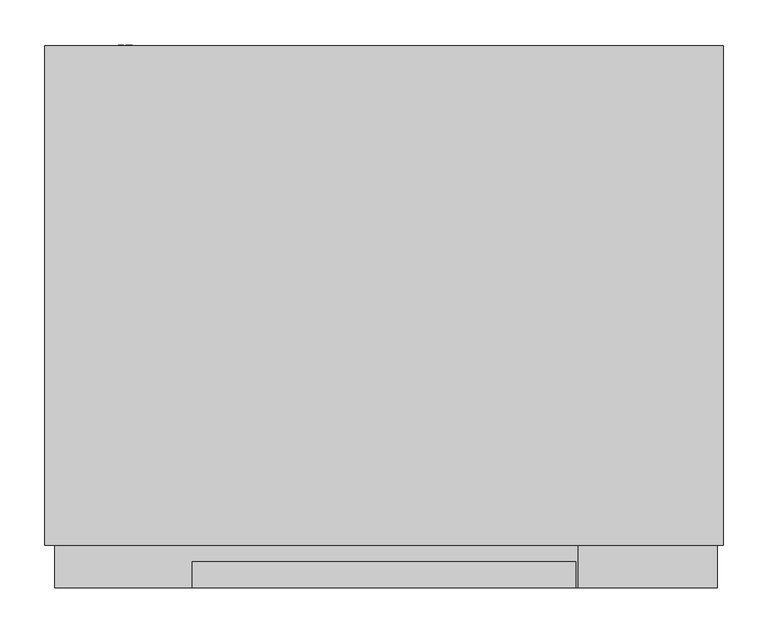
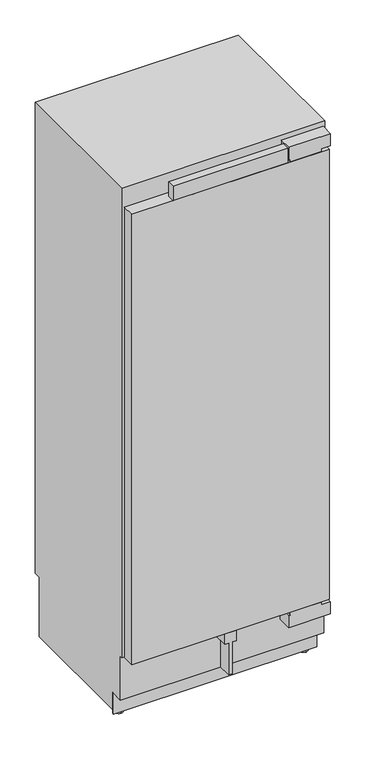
"""IFC4 building model written with IfcOpenShell, lengths in millimetres: proxy geometry, 11287990_OER_K2801VI : 36280101_OER_11287990_K2801VI."""

from ifc_helpers import new_model, si_unit, point, frame, frame_2d, origin, place, context, project, spatial, polyline, circle_curve, trimmed, segment, composite_curve, outline, extrude, source, transform, mapped, element, save
from ifc_brep_helpers import plane_surface, cylinder_surface, advanced_brep


def specialty_equipment_c14d8376(model_context):
    return source(origin(), model_context, "Body", "SolidModel", [
        extrude(outline(polyline([(-367.0, 47.0), (367.0, 47.0), (367.0, 0.0), (-367.0, 0.0), (-367.0, 47.0)])), frame((0.0, 0.0, 265.0), z_axis=(0.0, 0.0, 1.0), x_axis=(1.0, 0.0, 0.0)), (0.0, 0.0, 1.0), 1771.0),
        extrude(outline(polyline([(-213.5, 29.0), (213.5, 29.0), (213.5, 0.0), (-213.5, 0.0), (-213.5, 29.0)])), frame((0.0, 0.0, 2036.0), z_axis=(0.0, 0.0, 1.0), x_axis=(1.0, 0.0, 0.0)), (0.0, 0.0, 1.0), 56.0),
        extrude(outline(polyline([(265.0, 21.0), (265.0, 0.0), (265.0, -21.0), (224.0, -21.0), (224.0, -6.5), (99.0, -6.5), (99.0, 0.0), (99.0, 6.5), (224.0, 6.5), (224.0, 21.0), (265.0, 21.0)])), frame((0.0, 0.0, 0.0), z_axis=(0.0, 1.0, 0.0), x_axis=(0.0, 0.0, 1.0)), (0.0, 0.0, 1.0), 54.0),
        extrude(outline(polyline([(87.0, 1998.0), (544.0, 1998.0), (544.0, 1791.0), (475.0, 1791.0), (447.0, 1868.0), (201.3701279, 1868.0), (156.3150905, 1940.0880598), (87.0, 1949.0), (87.0, 1998.0)])), frame((-332.0, 0.0, 0.0), z_axis=(1.0, 0.0, 0.0), x_axis=(0.0, 1.0, 0.0)), (0.0, 0.0, 1.0), 664.0),
        extrude(outline(polyline([(196.9886114, 1875.0), (195.809433, 1875.0), (158.6921935, 1934.4), (159.8713719, 1934.4), (196.9886114, 1875.0)])), frame((-69.0, 0.0, 0.0), z_axis=(1.0, 0.0, 0.0), x_axis=(0.0, 1.0, 0.0)), (0.0, 0.0, 1.0), 138.0),
        extrude(outline(polyline([(2095.0, 371.5), (2095.0, 216.5), (2047.0, 216.5), (2047.0, 222.5), (2036.5, 222.5), (2036.5, 337.5), (2047.0, 337.5), (2047.0, 371.5), (2095.0, 371.5)])), frame((0.0, 0.0, 0.0), z_axis=(0.0, 1.0, 0.0), x_axis=(0.0, 0.0, 1.0)), (0.0, 0.0, 1.0), 47.0),
        extrude(outline(polyline([(254.0, 216.5), (206.0, 216.5), (206.0, 371.5), (254.0, 371.5), (254.0, 337.5), (264.0, 337.5), (264.0, 222.5), (254.0, 222.5), (254.0, 216.5)])), frame((0.0, 0.0, 0.0), z_axis=(0.0, 1.0, 0.0), x_axis=(0.0, 0.0, 1.0)), (0.0, 0.0, 1.0), 54.0),
        extrude(outline(polyline([(99.0373308, -287.7645771), (97.7615342, -287.7645771), (97.7615342, -281.8195541), (94.7968516, -281.8195541), (94.7968516, -287.469579), (93.5246295, -287.469579), (93.5246295, -281.8415693), (90.2570046, -281.8415693), (90.2570046, -287.9619689), (88.9546219, -287.9619689), (88.9546219, -280.5443524), (99.0373308, -280.5443524), (99.0373308, -287.7645771)])), frame((0.0, 604.0, 0.0), z_axis=(0.0, 1.0, 0.0), x_axis=(0.0, 0.0, 1.0)), (0.0, 0.0, 1.0), 1.0),
        extrude(outline(polyline([(99.0458, -291.0619704), (90.2663944, -291.0619704), (90.2663944, -296.1145879), (89.0134802, -296.1145879), (89.0134802, -289.8423809), (99.0458, -289.8423809), (99.0458, -291.0619704)])), frame((0.0, 604.0, 0.0), z_axis=(0.0, 1.0, 0.0), x_axis=(0.0, 0.0, 1.0)), (0.0, 0.0, 1.0), 1.0),
        extrude(outline(composite_curve([segment(trimmed(circle_curve(frame_2d((94.0, -288.0)), 7.5), [point((86.5, -288.0))], [point((101.5, -288.0))], False, "CARTESIAN"), True, "CONTINUOUS"), segment(trimmed(circle_curve(frame_2d((94.0, -288.0)), 7.5), [point((101.5, -288.0))], [point((86.5, -288.0))], False, "CARTESIAN"), True, "CONTINUOUS")], self_intersect=False)), frame((0.0, 577.0, 0.0), z_axis=(0.0, 1.0, 0.0), x_axis=(0.0, 0.0, 1.0)), (0.0, 0.0, 1.0), 27.0),
        extrude(outline(polyline([(-378.0, 104.0), (378.0, 104.0), (378.0, 99.0), (-378.0, 99.0), (-378.0, 104.0)])), frame((0.0, 0.0, 14.0), z_axis=(0.0, 0.0, 1.0), x_axis=(1.0, 0.0, 0.0)), (0.0, 0.0, 1.0), 83.0),
        advanced_brep(
        [(-344.0, 139.0, 0.0), (-344.0, 109.0, 0.0), (-344.0, 139.0, 7.0), (-344.0, 109.0, 7.0), (-344.0, 128.7, 7.0), (-344.0, 119.3, 7.0), (-344.0, 128.7, 28.0), (-344.0, 119.3, 28.0)],
        [
            (0, 1, circle_curve(frame((-344.0, 124.0, 0.0), z_axis=(0.0, 0.0, -1.0), x_axis=(1.0, 0.0, 0.0)), 15.0)),
            (1, 0, circle_curve(frame((-344.0, 124.0, 0.0), z_axis=(0.0, 0.0, -1.0), x_axis=(1.0, 0.0, 0.0)), 15.0)),
            (2, 3, circle_curve(frame((-344.0, 124.0, 7.0), z_axis=(0.0, 0.0, 1.0), x_axis=(1.0, 0.0, 0.0)), 15.0)),
            (3, 2, circle_curve(frame((-344.0, 124.0, 7.0), z_axis=(0.0, 0.0, 1.0), x_axis=(1.0, 0.0, 0.0)), 15.0)),
            (4, 5, circle_curve(frame((-344.0, 124.0, 7.0), z_axis=(0.0, 0.0, -1.0), x_axis=(0.0, -1.0, 0.0)), 4.7)),
            (5, 4, circle_curve(frame((-344.0, 124.0, 7.0), z_axis=(0.0, 0.0, -1.0), x_axis=(0.0, -1.0, 0.0)), 4.7)),
            (0, 2),
            (3, 1),
            (6, 7, circle_curve(frame((-344.0, 124.0, 28.0), z_axis=(0.0, 0.0, 1.0), x_axis=(0.0, -1.0, 0.0)), 4.7)),
            (7, 6, circle_curve(frame((-344.0, 124.0, 28.0), z_axis=(0.0, 0.0, 1.0), x_axis=(0.0, -1.0, 0.0)), 4.7)),
            (7, 5),
            (4, 6),
        ],
        [
            plane_surface(frame((-329.0, 124.0, 0.0), z_axis=(0.0, 0.0, -1.0), x_axis=(0.0, -1.0, 0.0))),
            plane_surface(frame((-329.0, 124.0, 7.0), z_axis=(0.0, 0.0, 1.0), x_axis=(0.0, 1.0, 0.0))),
            cylinder_surface(frame((-344.0, 124.0, 7.0), z_axis=(0.0, 0.0, -1.0), x_axis=(1.0, 0.0, 0.0)), 15.0),
            plane_surface(frame((-344.0, 119.3, 28.0), z_axis=(0.0, 0.0, 1.0), x_axis=(1.0, 0.0, 0.0))),
            cylinder_surface(frame((-344.0, 124.0, 28.0), z_axis=(0.0, 0.0, -1.0), x_axis=(0.0, -1.0, 0.0)), 4.7),
        ],
        [
            (0, [[1, 2]]),
            (1, [[3, 4], [5, 6]]),
            (2, [[-1, 7, -4, 8]]),
            (2, [[-2, -8, -3, -7]]),
            (3, [[9, 10]]),
            (4, [[-10, 11, -5, 12]]),
            (4, [[-9, -12, -6, -11]]),
        ],
    ),
        advanced_brep(
        [(344.0, 139.0, 0.0), (344.0, 109.0, 0.0), (344.0, 139.0, 7.0), (344.0, 109.0, 7.0), (344.0, 128.7, 7.0), (344.0, 119.3, 7.0), (344.0, 128.7, 28.0), (344.0, 119.3, 28.0)],
        [
            (0, 1, circle_curve(frame((344.0, 124.0, 0.0), z_axis=(0.0, 0.0, -1.0), x_axis=(1.0, 0.0, 0.0)), 15.0)),
            (1, 0, circle_curve(frame((344.0, 124.0, 0.0), z_axis=(0.0, 0.0, -1.0), x_axis=(1.0, 0.0, 0.0)), 15.0)),
            (2, 3, circle_curve(frame((344.0, 124.0, 7.0), z_axis=(0.0, 0.0, 1.0), x_axis=(1.0, 0.0, 0.0)), 15.0)),
            (3, 2, circle_curve(frame((344.0, 124.0, 7.0), z_axis=(0.0, 0.0, 1.0), x_axis=(1.0, 0.0, 0.0)), 15.0)),
            (4, 5, circle_curve(frame((344.0, 124.0, 7.0), z_axis=(0.0, 0.0, -1.0), x_axis=(0.0, -1.0, 0.0)), 4.7)),
            (5, 4, circle_curve(frame((344.0, 124.0, 7.0), z_axis=(0.0, 0.0, -1.0), x_axis=(0.0, -1.0, 0.0)), 4.7)),
            (0, 2),
            (3, 1),
            (6, 7, circle_curve(frame((344.0, 124.0, 28.0), z_axis=(0.0, 0.0, 1.0), x_axis=(0.0, -1.0, 0.0)), 4.7)),
            (7, 6, circle_curve(frame((344.0, 124.0, 28.0), z_axis=(0.0, 0.0, 1.0), x_axis=(0.0, -1.0, 0.0)), 4.7)),
            (7, 5),
            (4, 6),
        ],
        [
            plane_surface(frame((-329.0, 124.0, 0.0), z_axis=(0.0, 0.0, -1.0), x_axis=(0.0, -1.0, 0.0))),
            plane_surface(frame((-329.0, 124.0, 7.0), z_axis=(0.0, 0.0, 1.0), x_axis=(0.0, 1.0, 0.0))),
            cylinder_surface(frame((344.0, 124.0, 7.0), z_axis=(0.0, 0.0, -1.0), x_axis=(1.0, 0.0, 0.0)), 15.0),
            plane_surface(frame((-344.0, 119.3, 28.0), z_axis=(0.0, 0.0, 1.0), x_axis=(1.0, 0.0, 0.0))),
            cylinder_surface(frame((344.0, 124.0, 28.0), z_axis=(0.0, 0.0, -1.0), x_axis=(0.0, -1.0, 0.0)), 4.7),
        ],
        [
            (0, [[1, 2]]),
            (1, [[3, 4], [5, 6]]),
            (2, [[-1, 7, -4, 8]]),
            (2, [[-2, -8, -3, -7]]),
            (3, [[9, 10]]),
            (4, [[-10, 11, -5, 12]]),
            (4, [[-9, -12, -6, -11]]),
        ],
    ),
        advanced_brep(
        [(378.0, 47.0, 2114.0), (378.0, 47.0, 267.0), (378.0, 54.0, 267.0), (378.0, 54.0, 97.0), (378.0, 104.0, 97.0), (378.0, 104.0, 28.0), (378.0, 577.0, 28.0), (378.0, 577.0, 263.0), (378.0, 604.0, 263.0), (378.0, 604.0, 2114.0), (-378.0, 47.0, 2114.0), (-378.0, 604.0, 2114.0), (-378.0, 604.0, 263.0), (-378.0, 577.0, 263.0), (-378.0, 577.0, 28.0), (-378.0, 104.0, 28.0), (-378.0, 104.0, 97.0), (-378.0, 54.0, 97.0), (-378.0, 54.0, 267.0), (-378.0, 47.0, 267.0), (318.0, 577.0, 28.0), (318.0, 577.0, 14.0), (-318.0, 577.0, 14.0), (-318.0, 577.0, 28.0), (318.0, 104.0, 14.0), (-318.0, 104.0, 14.0), (-318.0, 104.0, 28.0), (318.0, 104.0, 28.0), (332.0, 47.0, 1998.0), (332.0, 47.0, 343.0), (-332.0, 47.0, 343.0), (-332.0, 47.0, 1998.0), (332.0, 544.0, 1998.0), (-332.0, 544.0, 1998.0), (-332.0, 544.0, 343.0), (332.0, 544.0, 343.0), (-336.5, 202.8193473, 28.0), (-355.5, 202.8193473, 28.0), (-355.5, 153.1806527, 28.0), (-336.5, 153.1806527, 28.0), (-356.0, 525.8193473, 28.0), (-356.0, 476.1806527, 28.0), (-340.0, 476.1806527, 28.0), (-340.0, 525.8193473, 28.0), (355.5, 153.1806527, 28.0), (355.5, 202.8193473, 28.0), (336.5, 202.8193473, 28.0), (336.5, 153.1806527, 28.0), (340.0, 525.8193473, 28.0), (340.0, 476.1806527, 28.0), (356.0, 476.1806527, 28.0), (356.0, 525.8193473, 28.0), (-336.5, 203.0, 25.0), (-336.5, 153.0, 25.0), (-355.5, 153.0, 25.0), (-355.5, 203.0, 25.0), (-336.5, 178.0, 25.0), (-355.5, 178.0, 25.0), (355.5, 178.0, 25.0), (355.5, 153.0, 25.0), (355.5, 203.0, 25.0), (336.5, 203.0, 25.0), (336.5, 153.0, 25.0), (336.5, 178.0, 25.0), (-356.0, 526.0, 25.0), (-356.0, 476.0, 25.0), (-356.0, 501.0, 25.0), (-340.0, 526.0, 25.0), (-340.0, 476.0, 25.0), (-340.0, 501.0, 25.0), (340.0, 526.0, 25.0), (340.0, 476.0, 25.0), (340.0, 501.0, 25.0), (356.0, 526.0, 25.0), (356.0, 476.0, 25.0), (356.0, 501.0, 25.0)],
        [
            (0, 1),
            (1, 2),
            (2, 3),
            (3, 4),
            (4, 5),
            (5, 6),
            (6, 7),
            (7, 8),
            (8, 9),
            (9, 0),
            (10, 11),
            (11, 12),
            (12, 13),
            (13, 14),
            (14, 15),
            (15, 16),
            (16, 17),
            (17, 18),
            (18, 19),
            (19, 10),
            (9, 11),
            (10, 0),
            (8, 12),
            (7, 13),
            (6, 20),
            (20, 21),
            (21, 22),
            (22, 23),
            (23, 14),
            (21, 24),
            (24, 25),
            (25, 22),
            (4, 16),
            (15, 26),
            (26, 25),
            (24, 27),
            (27, 5),
            (3, 17),
            (2, 18),
            (1, 19),
            (28, 29),
            (29, 30),
            (30, 31),
            (31, 28),
            (32, 33),
            (33, 34),
            (34, 35),
            (35, 32),
            (35, 29),
            (28, 32),
            (34, 30),
            (33, 31),
            (23, 26),
            (36, 37),
            (37, 38),
            (38, 39),
            (39, 36),
            (40, 41),
            (41, 42),
            (42, 43),
            (43, 40),
            (27, 20),
            (44, 45),
            (45, 46),
            (46, 47),
            (47, 44),
            (48, 49),
            (49, 50),
            (50, 51),
            (51, 48),
            (52, 53, circle_curve(frame((-336.5, 178.0, 25.0), z_axis=(-1.0, 0.0, 0.0), x_axis=(0.0, -1.0, 0.0)), 25.0)),
            (53, 54),
            (54, 55, circle_curve(frame((-355.5, 178.0, 25.0), z_axis=(1.0, 0.0, 0.0), x_axis=(0.0, -1.0, 0.0)), 25.0)),
            (55, 52),
            (53, 39, circle_curve(frame((-336.5, 178.0, 25.0), z_axis=(-1.0, 0.0, 0.0), x_axis=(0.0, -1.0, 0.0)), 25.0)),
            (38, 54, circle_curve(frame((-355.5, 178.0, 25.0), z_axis=(1.0, 0.0, 0.0), x_axis=(0.0, -1.0, 0.0)), 25.0)),
            (55, 37, circle_curve(frame((-355.5, 178.0, 25.0), z_axis=(1.0, 0.0, 0.0), x_axis=(0.0, -1.0, 0.0)), 25.0)),
            (36, 52, circle_curve(frame((-336.5, 178.0, 25.0), z_axis=(-1.0, 0.0, 0.0), x_axis=(0.0, -1.0, 0.0)), 25.0)),
            (52, 56),
            (56, 53),
            (54, 57),
            (57, 55),
            (58, 59),
            (59, 60, circle_curve(frame((355.5, 178.0, 25.0), z_axis=(1.0, 0.0, 0.0), x_axis=(0.0, -1.0, 0.0)), 25.0)),
            (60, 58),
            (60, 45, circle_curve(frame((355.5, 178.0, 25.0), z_axis=(1.0, 0.0, 0.0), x_axis=(0.0, -1.0, 0.0)), 25.0)),
            (44, 59, circle_curve(frame((355.5, 178.0, 25.0), z_axis=(1.0, 0.0, 0.0), x_axis=(0.0, -1.0, 0.0)), 25.0)),
            (61, 62, circle_curve(frame((336.5, 178.0, 25.0), z_axis=(-1.0, 0.0, 0.0), x_axis=(0.0, -1.0, 0.0)), 25.0)),
            (62, 63),
            (63, 61),
            (62, 47, circle_curve(frame((336.5, 178.0, 25.0), z_axis=(-1.0, 0.0, 0.0), x_axis=(0.0, -1.0, 0.0)), 25.0)),
            (46, 61, circle_curve(frame((336.5, 178.0, 25.0), z_axis=(-1.0, 0.0, 0.0), x_axis=(0.0, -1.0, 0.0)), 25.0)),
            (64, 65, circle_curve(frame((-356.0, 501.0, 25.0), z_axis=(-1.0, 0.0, 0.0), x_axis=(0.0, -1.0, 0.0)), 25.0)),
            (65, 66),
            (66, 64),
            (65, 41, circle_curve(frame((-356.0, 501.0, 25.0), z_axis=(-1.0, 0.0, 0.0), x_axis=(0.0, -1.0, 0.0)), 25.0)),
            (40, 64, circle_curve(frame((-356.0, 501.0, 25.0), z_axis=(-1.0, 0.0, 0.0), x_axis=(0.0, -1.0, 0.0)), 25.0)),
            (64, 67),
            (67, 68, circle_curve(frame((-340.0, 501.0, 25.0), z_axis=(-1.0, 0.0, 0.0), x_axis=(0.0, -1.0, 0.0)), 25.0)),
            (68, 65),
            (43, 67, circle_curve(frame((-340.0, 501.0, 25.0), z_axis=(-1.0, 0.0, 0.0), x_axis=(0.0, -1.0, 0.0)), 25.0)),
            (68, 42, circle_curve(frame((-340.0, 501.0, 25.0), z_axis=(-1.0, 0.0, 0.0), x_axis=(0.0, -1.0, 0.0)), 25.0)),
            (67, 69),
            (69, 68),
            (70, 71, circle_curve(frame((340.0, 501.0, 25.0), z_axis=(-1.0, 0.0, 0.0), x_axis=(0.0, -1.0, 0.0)), 25.0)),
            (71, 72),
            (72, 70),
            (71, 49, circle_curve(frame((340.0, 501.0, 25.0), z_axis=(-1.0, 0.0, 0.0), x_axis=(0.0, -1.0, 0.0)), 25.0)),
            (48, 70, circle_curve(frame((340.0, 501.0, 25.0), z_axis=(-1.0, 0.0, 0.0), x_axis=(0.0, -1.0, 0.0)), 25.0)),
            (70, 73),
            (73, 74, circle_curve(frame((356.0, 501.0, 25.0), z_axis=(-1.0, 0.0, 0.0), x_axis=(0.0, -1.0, 0.0)), 25.0)),
            (74, 71),
            (51, 73, circle_curve(frame((356.0, 501.0, 25.0), z_axis=(-1.0, 0.0, 0.0), x_axis=(0.0, -1.0, 0.0)), 25.0)),
            (74, 50, circle_curve(frame((356.0, 501.0, 25.0), z_axis=(-1.0, 0.0, 0.0), x_axis=(0.0, -1.0, 0.0)), 25.0)),
            (73, 75),
            (75, 74),
            (59, 62),
            (61, 60),
        ],
        [
            plane_surface(frame((378.0, 604.0, 2114.0), z_axis=(1.0, 0.0, 0.0), x_axis=(0.0, -1.0, 0.0))),
            plane_surface(frame((-378.0, 604.0, 2114.0), z_axis=(-1.0, 0.0, 0.0), x_axis=(0.0, 1.0, 0.0))),
            plane_surface(frame((-378.0, 47.0, 2114.0), z_axis=(0.0, 0.0, 1.0), x_axis=(1.0, 0.0, 0.0))),
            plane_surface(frame((-378.0, 604.0, 2114.0), z_axis=(0.0, 1.0, 0.0), x_axis=(1.0, 0.0, 0.0))),
            plane_surface(frame((-378.0, 604.0, 263.0), z_axis=(0.0, 0.0, -1.0), x_axis=(1.0, 0.0, 0.0))),
            plane_surface(frame((-378.0, 577.0, 263.0), z_axis=(0.0, 1.0, 0.0), x_axis=(1.0, 0.0, 0.0))),
            plane_surface(frame((-378.0, 577.0, 14.0), z_axis=(0.0, 0.0, -1.0), x_axis=(1.0, 0.0, 0.0))),
            plane_surface(frame((-378.0, 104.0, 14.0), z_axis=(0.0, -1.0, 0.0), x_axis=(1.0, 0.0, 0.0))),
            plane_surface(frame((-378.0, 104.0, 97.0), z_axis=(0.0, 0.0, -1.0), x_axis=(1.0, 0.0, 0.0))),
            plane_surface(frame((-378.0, 54.0, 97.0), z_axis=(0.0, -1.0, 0.0), x_axis=(1.0, 0.0, 0.0))),
            plane_surface(frame((-378.0, 54.0, 267.0), z_axis=(0.0, 0.0, -1.0), x_axis=(1.0, 0.0, 0.0))),
            plane_surface(frame((-378.0, 47.0, 267.0), z_axis=(0.0, -1.0, 0.0), x_axis=(1.0, 0.0, 0.0))),
            plane_surface(frame((332.0, 544.0, 1998.0), z_axis=(0.0, -1.0, 0.0), x_axis=(0.0, 0.0, -1.0))),
            plane_surface(frame((332.0, 544.0, 1998.0), z_axis=(-1.0, 0.0, 0.0), x_axis=(0.0, -1.0, 0.0))),
            plane_surface(frame((332.0, 544.0, 343.0), z_axis=(0.0, 0.0, 1.0), x_axis=(0.0, -1.0, 0.0))),
            plane_surface(frame((-332.0, 544.0, 343.0), z_axis=(1.0, 0.0, 0.0), x_axis=(0.0, -1.0, 0.0))),
            plane_surface(frame((-332.0, 544.0, 1998.0), z_axis=(0.0, 0.0, -1.0), x_axis=(0.0, -1.0, 0.0))),
            plane_surface(frame((-378.0, 604.0, 28.0), z_axis=(0.0, 0.0, -1.0), x_axis=(-1.0, 0.0, 0.0))),
            plane_surface(frame((-318.0, 104.0, 28.0), z_axis=(-1.0, 0.0, 0.0), x_axis=(0.0, 0.0, -1.0))),
            plane_surface(frame((318.0, 604.0, 28.0), z_axis=(1.0, 0.0, 0.0), x_axis=(0.0, 0.0, -1.0))),
            cylinder_surface(frame((-470.6988927, 178.0, 25.0), z_axis=(1.0, 0.0, 0.0), x_axis=(0.0, -1.0, 0.0)), 25.0),
            plane_surface(frame((-336.5, 178.0, 25.0), z_axis=(1.0, 0.0, 0.0), x_axis=(0.0, -1.0, 0.0))),
            plane_surface(frame((-355.5, 178.0, 25.0), z_axis=(-1.0, 0.0, 0.0), x_axis=(0.0, -1.0, 0.0))),
            plane_surface(frame((355.5, 178.0, 25.0), z_axis=(1.0, 0.0, 0.0), x_axis=(0.0, -1.0, 0.0))),
            plane_surface(frame((336.5, 178.0, 25.0), z_axis=(-1.0, 0.0, 0.0), x_axis=(0.0, -1.0, 0.0))),
            plane_surface(frame((-356.0, 501.0, 25.0), z_axis=(-1.0, 0.0, 0.0), x_axis=(0.0, -1.0, 0.0))),
            cylinder_surface(frame((-470.6988927, 501.0, 25.0), z_axis=(1.0, 0.0, 0.0), x_axis=(0.0, -1.0, 0.0)), 25.0),
            plane_surface(frame((-340.0, 501.0, 25.0), z_axis=(1.0, 0.0, 0.0), x_axis=(0.0, -1.0, 0.0))),
            plane_surface(frame((340.0, 501.0, 25.0), z_axis=(-1.0, 0.0, 0.0), x_axis=(0.0, -1.0, 0.0))),
            plane_surface(frame((356.0, 501.0, 25.0), z_axis=(1.0, 0.0, 0.0), x_axis=(0.0, -1.0, 0.0))),
        ],
        [
            (0, [[1, 2, 3, 4, 5, 6, 7, 8, 9, 10]]),
            (1, [[11, 12, 13, 14, 15, 16, 17, 18, 19, 20]]),
            (2, [[-10, 21, -11, 22]]),
            (3, [[-9, 23, -12, -21]]),
            (4, [[-8, 24, -13, -23]]),
            (5, [[-24, -7, 25, 26, 27, 28, 29, -14]]),
            (6, [[-27, 30, 31, 32]]),
            (7, [[33, -16, 34, 35, -31, 36, 37, -5]]),
            (8, [[-4, 38, -17, -33]]),
            (9, [[-3, 39, -18, -38]]),
            (10, [[-2, 40, -19, -39]]),
            (11, [[-1, -22, -20, -40], [41, 42, 43, 44]]),
            (12, [[45, 46, 47, 48]]),
            (13, [[-48, 49, -41, 50]]),
            (14, [[-47, 51, -42, -49]]),
            (15, [[-46, 52, -43, -51]]),
            (16, [[-45, -50, -44, -52]]),
            (17, [[53, -34, -15, -29], [54, 55, 56, 57], [58, 59, 60, 61]]),
            (17, [[62, -25, -6, -37], [63, 64, 65, 66], [67, 68, 69, 70]]),
            (18, [[-53, -28, -32, -35]]),
            (19, [[-62, -36, -30, -26]]),
            (20, [[71, 72, 73, 74]]),
            (20, [[-72, 75, -56, 76]]),
            (20, [[-74, 77, -54, 78]]),
            (21, [[-71, 79, 80]]),
            (21, [[-80, -79, -78, -57, -75]]),
            (22, [[-73, 81, 82]]),
            (22, [[-81, -76, -55, -77, -82]]),
            (23, [[83, 84, 85]]),
            (23, [[-83, -85, 86, -63, 87]]),
            (24, [[88, 89, 90]]),
            (24, [[-89, 91, -65, 92, -90]]),
            (25, [[93, 94, 95]]),
            (25, [[-94, 96, -58, 97, -95]]),
            (26, [[-93, 98, 99, 100]]),
            (26, [[-98, -97, -61, 101]]),
            (26, [[-100, 102, -59, -96]]),
            (27, [[-99, 103, 104]]),
            (27, [[-104, -103, -101, -60, -102]]),
            (28, [[105, 106, 107]]),
            (28, [[-106, 108, -67, 109, -107]]),
            (26, [[-105, 110, 111, 112]]),
            (26, [[-110, -109, -70, 113]]),
            (26, [[-112, 114, -68, -108]]),
            (29, [[-111, 115, 116]]),
            (29, [[-116, -115, -113, -69, -114]]),
            (20, [[-84, 117, -88, 118]]),
            (20, [[-117, -87, -66, -91]]),
            (20, [[-118, -92, -64, -86]]),
        ],
    ),
    ])


if __name__ == "__main__":
    model = new_model("IFC4")
    model_context = context("Model", 3, world=origin())
    ifc_project = project(units=[si_unit("LENGTHUNIT", "METRE", prefix="MILLI")], contexts=[model_context])
    site = spatial("IfcSite", under=ifc_project)
    building = spatial("IfcBuilding", under=site)
    placement = place(None, origin())
    specialty_equipment_shape = specialty_equipment_c14d8376(model_context)
    element("IfcBuildingElementProxy", 1, Name="11287990_OER_K2801VI : 36280101_OER_11287990_K2801VI", ObjectType="11287990_OER_K2801VI : 36280101_OER_11287990_K2801VI", at=placement, inside=building, context=model_context, shape_type="MappedRepresentation", body=[
        mapped(specialty_equipment_shape, transform((0.0, 0.0, 0.0), x_axis=(1.0, 0.0, 0.0), y_axis=(0.0, 1.0, 0.0), z_axis=(0.0, 0.0, 1.0))),
    ])
    save(model, "model.ifc")
